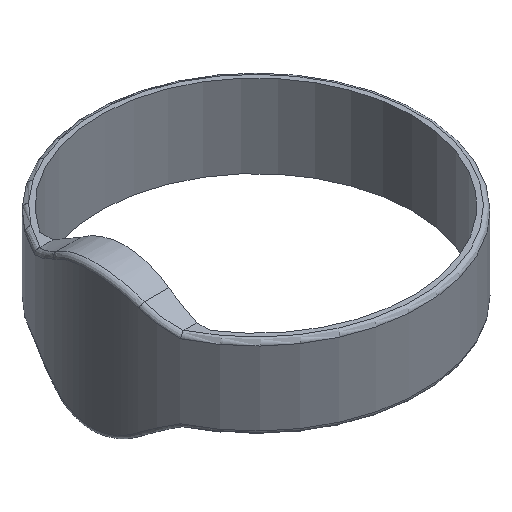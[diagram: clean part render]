
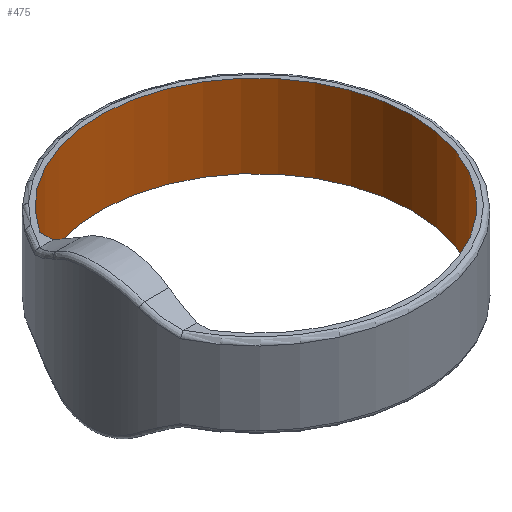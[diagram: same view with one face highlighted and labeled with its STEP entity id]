
A CAD part, isometric view. The second image highlights one B-rep face of the part: STEP entity #475.
In plain terms, the highlighted cylindrical face has radius 34 mm (diameter 68 mm), a partial arc.
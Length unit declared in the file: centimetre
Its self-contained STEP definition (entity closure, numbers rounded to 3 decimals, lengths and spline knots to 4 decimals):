
#166=CYLINDRICAL_SURFACE('',#1023,3.4);
#196=VERTEX_POINT('',#3414);
#197=VERTEX_POINT('',#3416);
#202=VERTEX_POINT('',#3475);
#203=VERTEX_POINT('',#3477);
#281=EDGE_CURVE('',#196,#197,#652,.T.);
#289=EDGE_CURVE('',#203,#202,#654,.T.);
#299=EDGE_CURVE('',#196,#203,#622,.T.);
#300=EDGE_CURVE('',#197,#202,#623,.T.);
#413=ORIENTED_EDGE('',*,*,#289,.T.);
#414=ORIENTED_EDGE('',*,*,#300,.F.);
#415=ORIENTED_EDGE('',*,*,#281,.F.);
#416=ORIENTED_EDGE('',*,*,#299,.T.);
#436=EDGE_LOOP('',(#413,#414,#415,#416));
#456=FACE_BOUND('',#436,.T.);
#475=ADVANCED_FACE('',(#456),#166,.F.);
#622=LINE('',#3535,#1064);
#623=LINE('',#3536,#1065);
#652=CIRCLE('',#1015,3.4);
#654=CIRCLE('',#1019,3.4);
#1015=AXIS2_PLACEMENT_3D('',#3415,#1206,#1207);
#1019=AXIS2_PLACEMENT_3D('',#3476,#1215,#1216);
#1023=AXIS2_PLACEMENT_3D('',#3537,#1227,#1228);
#1064=VECTOR('',#1225,1.);
#1065=VECTOR('',#1226,1.);
#1206=DIRECTION('',(0.,0.,1.));
#1207=DIRECTION('',(3.4,0.,0.));
#1215=DIRECTION('',(0.,0.,1.));
#1216=DIRECTION('',(3.4,0.,0.));
#1225=DIRECTION('',(0.,0.,1.));
#1226=DIRECTION('',(0.,0.,1.));
#1227=DIRECTION('',(0.,0.,1.));
#1228=DIRECTION('',(3.4,0.,0.));
#3414=CARTESIAN_POINT('',(-2.85,-1.854,0.));
#3415=CARTESIAN_POINT('',(0.,0.,0.));
#3416=CARTESIAN_POINT('',(-2.85,1.854,0.));
#3475=CARTESIAN_POINT('',(-2.85,1.854,1.8));
#3476=CARTESIAN_POINT('',(0.,0.,1.8));
#3477=CARTESIAN_POINT('',(-2.85,-1.854,1.8));
#3535=CARTESIAN_POINT('',(-2.85,-1.854,0.));
#3536=CARTESIAN_POINT('',(-2.85,1.854,0.));
#3537=CARTESIAN_POINT('',(0.,0.,0.));
